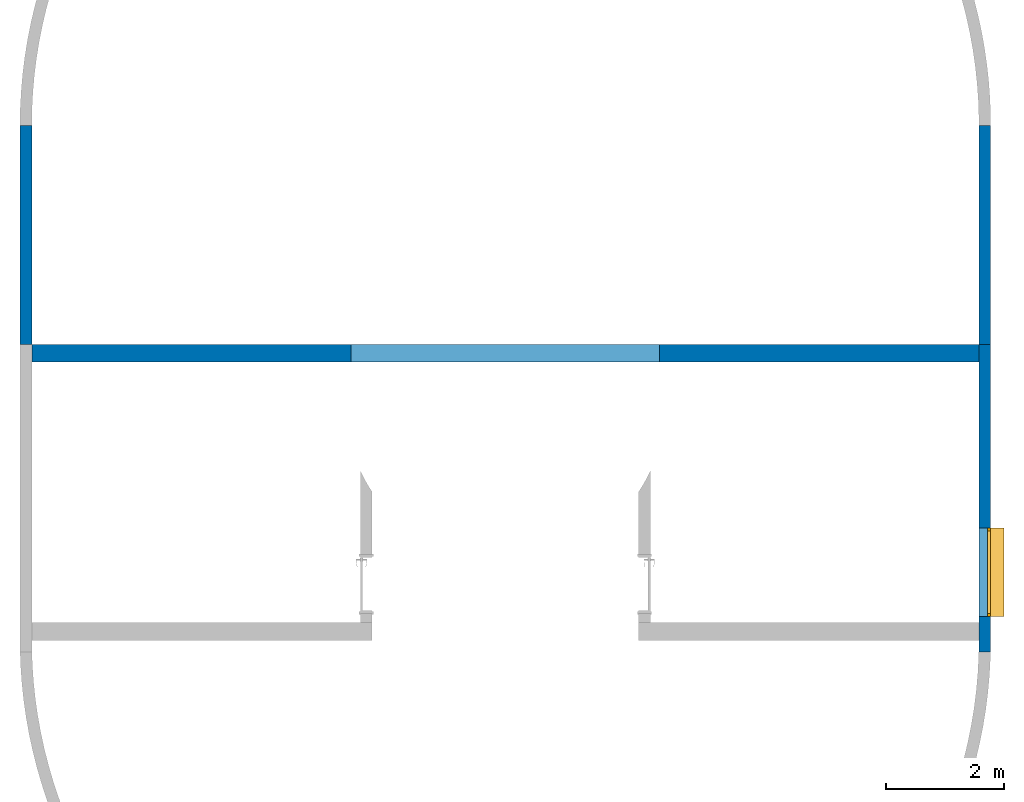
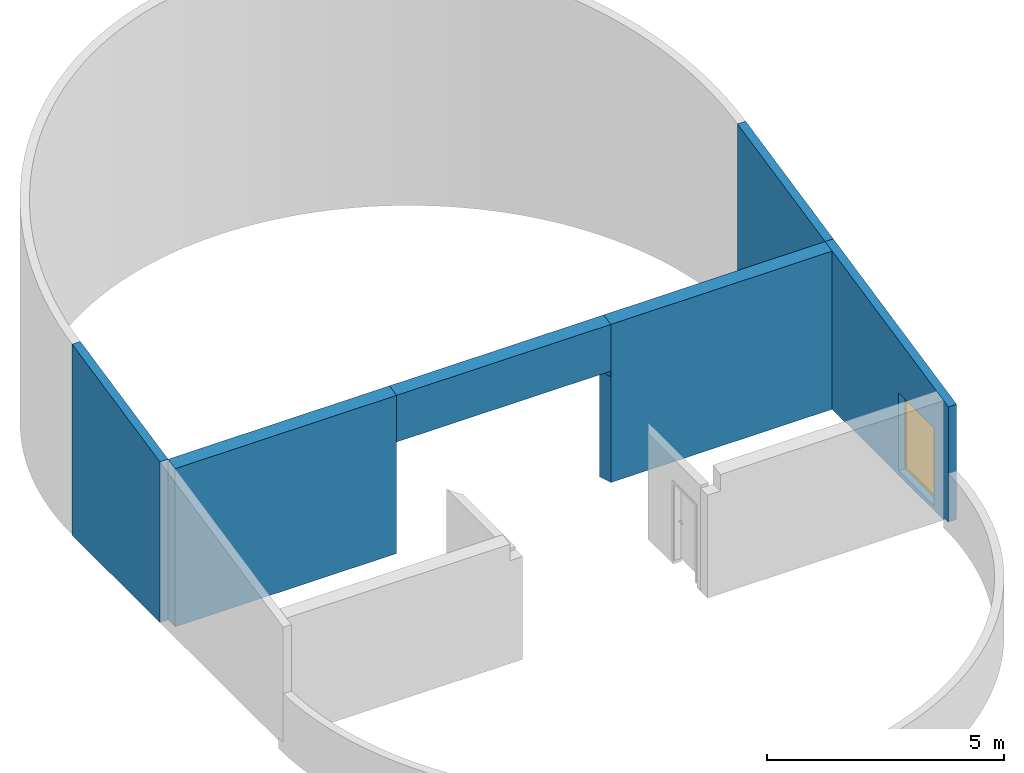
# One storey, part 6 of 7: 6 walls, 1 window, 2 openings.
"""IFC4 building model written with IfcOpenShell, lengths in millimetres."""

from ifc_helpers import new_model, entity, si_unit, converted_unit, derived_unit, direction, frame, origin_with_axes, place, context, subcontext, project, spatial, polygons, material, constituent, constituent_set, type_object, element, fill, save


model = new_model("IFC4")

# Units and contexts
model_context = context("Model", 3, precision=0.01, world=origin_with_axes(), true_north=direction((0.0, 1.0)))
body_context = subcontext(model_context, "Body", "Model", "MODEL_VIEW")
ifc_project = project(units=[si_unit("LENGTHUNIT", "METRE", prefix="MILLI"), si_unit("AREAUNIT", "SQUARE_METRE"), si_unit("VOLUMEUNIT", "CUBIC_METRE"), converted_unit("PLANEANGLEUNIT", "DEGREE", entity("IfcPlaneAngleMeasure", 0.0174532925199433), si_unit("PLANEANGLEUNIT", "RADIAN"), dimensions=[0, 0, 0, 0, 0, 0, 0]), converted_unit("TIMEUNIT", "Year", entity("IfcTimeMeasure", 31557600.0), si_unit("TIMEUNIT", "SECOND"), dimensions=[0, 0, 1, 0, 0, 0, 0]), si_unit("MASSUNIT", "GRAM", prefix="KILO"), si_unit("THERMODYNAMICTEMPERATUREUNIT", "DEGREE_CELSIUS"), si_unit("LUMINOUSINTENSITYUNIT", "LUMEN"), si_unit("ENERGYUNIT", "JOULE", prefix="MEGA"), derived_unit("THERMALCONDUCTANCEUNIT", [(si_unit("POWERUNIT", "WATT"), 1), (si_unit("LENGTHUNIT", "METRE"), -1), (si_unit("THERMODYNAMICTEMPERATUREUNIT", "KELVIN"), -1)]), derived_unit("SPECIFICHEATCAPACITYUNIT", [(si_unit("ENERGYUNIT", "JOULE"), 1), (si_unit("MASSUNIT", "GRAM", prefix="KILO"), -1), (si_unit("THERMODYNAMICTEMPERATUREUNIT", "KELVIN"), -1)]), derived_unit("MASSDENSITYUNIT", [(si_unit("MASSUNIT", "GRAM", prefix="KILO"), 1), (si_unit("VOLUMEUNIT", "CUBIC_METRE"), -1)])], contexts=[model_context])

# Site, building, storey
site_placement = place(None, origin_with_axes())
site = spatial("IfcSite", under=ifc_project, at=site_placement, Name="Exteriér", CompositionType="ELEMENT")
building_placement = place(site_placement, origin_with_axes())
building = spatial("IfcBuilding", under=site, at=building_placement, Name="Univerzitní lezecké centrum", CompositionType="ELEMENT")
storey_placement = place(building_placement, frame((0.0, 0.0, 9600.000000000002), z_axis=(0.0, 0.0, 1.0), x_axis=(1.0, 0.0, 0.0)))
storey = spatial("IfcBuildingStorey", under=building, at=storey_placement, Name="4.NP", CompositionType="ELEMENT", Elevation=9600.0)

# Wall, opening
ifc_material_1 = material(Name="Beton vyztužený - vnější svislé kce")
ifc_constituent_1 = constituent(ifc_material_1, Name="Beton vyztužený - vnější svislé kce")
ifc_constituent_set_1 = constituent_set(constituents=[ifc_constituent_1], Name="!Vnější betonová stěna 200 mm")
wall_type_1 = type_object("IfcWallType", Name="!Vnější betonová stěna 200 mm 200", PredefinedType="NOTDEFINED")
wall_1_placement = place(storey_placement, frame((10449.85164885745, 8399.999999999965, -120.000000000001), z_axis=(0.0, 0.0, 1.0), x_axis=(0.0, -1.0, 0.0)))
wall_1 = element("IfcWall", 1, at=wall_1_placement, inside=storey, type_object=wall_type_1, material=ifc_constituent_set_1, Name="St01", PredefinedType="NOTDEFINED", context=body_context, shape_type="Tessellation", body=[
    polygons([(0.0, 0.0, 4923.130388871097), (0.0, 200.0000000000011, 4923.130388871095), (0.0, 199.9999999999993, 0.0), (0.0, 0.0, 0.0), (3700.000000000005, 200.0000001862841, 4136.671110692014), (3700.000000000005, 0.0, 4136.671110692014), (3700.000000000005, 199.9999999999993, 0.0), (3429.669165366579, 199.9999999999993, 0.0), (3429.669165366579, 200.0000000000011, 245.8258195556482), (2619.196412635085, 200.0000000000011, 245.8258195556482), (2619.196412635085, 199.9999999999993, 0.0), (2619.196412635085, 0.0, 0.0), (2619.196412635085, 0.0, 245.8258195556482), (3429.669165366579, 0.0, 245.8258195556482), (3429.669165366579, 0.0, 0.0), (3700.000000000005, 0.0, 0.0)], [[[1, 2, 3, 4]], [[5, 2, 1, 6]], [[2, 5, 7, 8, 9, 10, 11, 3]], [[12, 4, 3, 11]], [[6, 1, 4, 12, 13, 14, 15, 16]], [[5, 6, 16, 7]], [[15, 8, 7, 16]], [[8, 15, 14, 9]], [[9, 14, 13, 10]], [[10, 13, 12, 11]]], closed=True),
])
opening_1_placement = place(wall_1_placement, frame((8399.999999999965, -10449.85164885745, -9480.0), z_axis=(0.0, 0.0, 1.0), x_axis=(0.0, 1.0, 0.0)))
element("IfcOpeningElement", 2, at=opening_1_placement, cuts=wall_1, Name="Pr04", PredefinedType="NOTDEFINED", context=body_context, identifier="Reference", shape_type="Tessellation", body=[
    polygons([(10249.85164885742, 5780.803587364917, 9480.0), (10249.85164885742, 5780.803587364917, 9725.825819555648), (10849.85164885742, 5780.803587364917, 9725.825819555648), (10849.85164885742, 5780.803587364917, 9480.0), (10249.85164885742, 4970.330834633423, 9480.0), (10249.85164885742, 4970.330834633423, 9725.825819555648), (10849.85164885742, 4970.330834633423, 9725.825819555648), (10849.85164885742, 4970.330834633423, 9480.0)], [[[1, 2, 3, 4]], [[1, 5, 6, 2]], [[2, 6, 7, 3]], [[4, 3, 7, 8]], [[5, 1, 4, 8]], [[6, 5, 8, 7]]], closed=True),
])

# Wall, opening, window
ifc_constituent_2 = constituent(ifc_material_1, Name="Beton vyztužený - vnější svislé kce")
ifc_constituent_set_2 = constituent_set(constituents=[ifc_constituent_2], Name="!Vnější betonová stěna 200 mm")
wall_2_placement = place(storey_placement, frame((10449.85164885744, 4699.99999999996, -120.000000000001), z_axis=(0.0, 0.0, 1.0), x_axis=(0.0, -1.0, 0.0)))
wall_2 = element("IfcWall", 3, at=wall_2_placement, inside=storey, type_object=wall_type_1, material=ifc_constituent_set_2, Name="St01", PredefinedType="NOTDEFINED", context=body_context, shape_type="Tessellation", body=[
    polygons([(150.7121686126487, 0.0, 4104.636251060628), (150.7121686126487, 200.0000000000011, 4104.636251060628), (0.0, 200.0000001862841, 4136.671110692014), (0.0, 0.0, 4136.671110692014), (5200.006158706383, 200.0000083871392, 3031.375681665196), (5200.006158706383, 0.0, 3031.375681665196), (5200.000000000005, 199.9999999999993, 1320.0), (5200.000000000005, 199.9999999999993, 69.00000000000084), (4999.999999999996, 199.9999999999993, 69.00000000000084), (4999.999999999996, 199.9999999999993, 0.0), (0.0, 199.9999999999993, 0.0), (3099.999999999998, 200.0000183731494, 2120.000000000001), (3099.999999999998, 200.0000183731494, 120.000000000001), (4599.999999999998, 200.0000183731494, 120.000000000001), (4599.999999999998, 200.0000183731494, 2120.000000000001), (0.0, 0.0, 0.0), (4999.999999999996, 0.0, 0.0), (4999.999999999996, 0.0, 69.00000000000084), (5200.000000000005, 0.0, 69.00000000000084), (5200.000000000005, 0.0, 1320.0), (3099.999999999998, 0.0, 2120.000000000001), (4599.999999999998, 0.0, 2120.000000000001), (4599.999999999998, 0.0, 120.000000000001), (3099.999999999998, 0.0, 120.000000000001)], [[[1, 2, 3, 4]], [[5, 2, 1, 6]], [[2, 5, 7, 8, 9, 10, 11, 3], [12, 13, 14, 15]], [[16, 4, 3, 11]], [[6, 1, 4, 16, 17, 18, 19, 20], [21, 22, 23, 24]], [[5, 6, 20, 7]], [[20, 19, 8, 7]], [[19, 18, 9, 8]], [[9, 18, 17, 10]], [[17, 16, 11, 10]], [[21, 24, 13, 12]], [[24, 23, 14, 13]], [[23, 22, 15, 14]], [[22, 21, 12, 15]]], closed=True),
])
opening_2_placement = place(wall_2_placement, frame((3849.999999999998, 0.0, 120.000000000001), z_axis=(0.0, 0.0, 1.0), x_axis=(1.0, 0.0, 0.0)))
opening_2 = element("IfcOpeningElement", 4, at=opening_2_placement, cuts=wall_2, Name="O03", context=body_context, identifier="Reference", shape_type="Tessellation", body=[
    polygons([(-750.0, -0.9999999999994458, 2000.0), (-750.0, -0.9999999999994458, 0.0), (750.0, -0.9999999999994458, 0.0), (750.0, -0.9999999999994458, 2000.0), (-750.0, 200.9999999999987, 2000.0), (-750.0, 200.9999999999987, 0.0), (750.0, 200.9999999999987, 0.0), (750.0, 200.9999999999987, 2000.0)], [[[1, 2, 3, 4]], [[5, 6, 2, 1]], [[6, 7, 3, 2]], [[7, 8, 4, 3]], [[8, 5, 1, 4]], [[7, 6, 5, 8]]], closed=True),
])
window_type = type_object("IfcWindowType", Name="Okno 27", PartitioningType="SINGLE_PANEL", PredefinedType="NOTDEFINED")
window_placement = place(opening_2_placement, frame((-750.0000000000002, 0.0, 0.0), z_axis=(0.0, 0.0, 1.0), x_axis=(1.0, 0.0, 0.0)))
window = element("IfcWindow", 5, at=window_placement, inside=storey, type_object=window_type, Name="O03", OverallHeight=2000.0, OverallWidth=1500.0, PredefinedType="NOTDEFINED", context=body_context, shape_type="Tessellation", body=[
    polygons([(0.0, 200.9999999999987, 25.00000000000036), (1500.0, 200.9999999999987, 25.00000000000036), (1500.0, 200.9999999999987, 15.00000000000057), (0.0, 200.9999999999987, 15.00000000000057), (1500.0, 424.9999999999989, 15.00000000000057), (0.0, 424.9999999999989, 15.00000000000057), (1500.0, 424.9999999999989, -5.000000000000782), (0.0, 424.9999999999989, -5.000000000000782), (1500.0, 414.9999999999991, 5.000000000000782), (0.0, 414.9999999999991, 5.000000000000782)], [[[1, 2, 3, 4]], [[4, 3, 5, 6]], [[6, 5, 7, 8]], [[8, 7, 9, 10]]], closed=False),
    polygons([(50.00000000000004, 149.9999999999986, 1949.999999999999), (50.00000000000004, 199.9999999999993, 1949.999999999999), (0.0, 199.9999999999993, 1949.999999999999), (0.0, 149.9999999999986, 1949.999999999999), (50.00000000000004, 149.9999999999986, 50.00000000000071), (50.00000000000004, 199.9999999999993, 50.00000000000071), (0.0, 199.9999999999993, 50.00000000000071), (0.0, 149.9999999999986, 50.00000000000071)], [[[1, 2, 3, 4]], [[5, 6, 2, 1]], [[2, 6, 7, 3]], [[4, 3, 7, 8]], [[1, 4, 8, 5]], [[8, 7, 6, 5]]], closed=True),
    polygons([(1450.0, 149.9999999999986, 50.00000000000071), (1450.0, 199.9999999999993, 50.00000000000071), (1500.0, 199.9999999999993, 50.00000000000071), (1500.0, 149.9999999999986, 50.00000000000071), (1450.0, 149.9999999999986, 1949.999999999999), (1450.0, 199.9999999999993, 1949.999999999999), (1500.0, 199.9999999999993, 1949.999999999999), (1500.0, 149.9999999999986, 1949.999999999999)], [[[1, 2, 3, 4]], [[5, 6, 2, 1]], [[2, 6, 7, 3]], [[4, 3, 7, 8]], [[1, 4, 8, 5]], [[8, 7, 6, 5]]], closed=True),
    polygons([(50.00000000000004, 149.9999999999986, 50.00000000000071), (50.00000000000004, 199.9999999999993, 50.00000000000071), (0.0, 199.9999999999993, 50.00000000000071), (0.0, 149.9999999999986, 50.00000000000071), (1450.0, 149.9999999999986, 50.00000000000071), (1450.0, 199.9999999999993, 50.00000000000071), (1500.0, 199.9999999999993, 50.00000000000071), (1500.0, 199.9999999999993, 0.0), (0.0, 199.9999999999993, 0.0), (0.0, 149.9999999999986, 0.0), (1500.0, 149.9999999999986, 0.0), (1500.0, 149.9999999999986, 50.00000000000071)], [[[1, 2, 3, 4]], [[5, 6, 2, 1]], [[2, 6, 7, 8, 9, 3]], [[4, 3, 9, 10]], [[1, 4, 10, 11, 12, 5]], [[12, 7, 6, 5]], [[11, 8, 7, 12]], [[10, 9, 8, 11]]], closed=True),
    polygons([(1450.0, 149.9999999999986, 1949.999999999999), (1450.0, 199.9999999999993, 1949.999999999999), (1500.0, 199.9999999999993, 1949.999999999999), (1500.0, 149.9999999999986, 1949.999999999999), (50.00000000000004, 149.9999999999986, 1949.999999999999), (50.00000000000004, 199.9999999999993, 1949.999999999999), (0.0, 199.9999999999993, 1949.999999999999), (0.0, 199.9999999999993, 2000.0), (1500.0, 199.9999999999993, 2000.0), (1500.0, 149.9999999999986, 2000.0), (0.0, 149.9999999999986, 2000.0), (0.0, 149.9999999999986, 1949.999999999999)], [[[1, 2, 3, 4]], [[5, 6, 2, 1]], [[2, 6, 7, 8, 9, 3]], [[4, 3, 9, 10]], [[1, 4, 10, 11, 12, 5]], [[12, 7, 6, 5]], [[11, 8, 7, 12]], [[10, 9, 8, 11]]], closed=True),
    polygons([(50.00000000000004, 164.9999999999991, 50.00000000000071), (1450.0, 164.9999999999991, 50.00000000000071), (1450.0, 164.9999999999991, 1949.999999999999), (50.00000000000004, 164.9999999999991, 1949.999999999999)], [[[1, 2, 3, 4]]], closed=False),
    polygons([(50.00000000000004, 184.9999999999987, 50.00000000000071), (50.00000000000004, 184.9999999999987, 1949.999999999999), (1450.0, 184.9999999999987, 1949.999999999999), (1450.0, 184.9999999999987, 50.00000000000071)], [[[1, 2, 3, 4]]], closed=False),
])
fill(opening_2, window)

# Walls
ifc_constituent_3 = constituent(ifc_material_1, Name="Beton vyztužený - vnější svislé kce")
ifc_constituent_set_3 = constituent_set(constituents=[ifc_constituent_3], Name="!Vnější betonová stěna 200 mm")
wall_3_placement = place(storey_placement, frame((-5550.148351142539, 8400.000000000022, -120.000000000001), z_axis=(0.0, 0.0, 1.0), x_axis=(0.0, -1.0, 0.0)))
element("IfcWall", 6, at=wall_3_placement, inside=storey, type_object=wall_type_1, material=ifc_constituent_set_3, Name="St01", PredefinedType="NOTDEFINED", context=body_context, shape_type="Tessellation", body=[
    polygons([(0.0, -199.9999999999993, 4923.130388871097), (0.0, 0.0, 4923.130388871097), (0.0, 0.0, 0.0), (0.0, -200.0000000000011, 0.0), (3700.000000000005, 1.862847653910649e-07, 4136.671110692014), (3700.000000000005, -199.9999999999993, 4136.671110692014), (3700.000000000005, 0.0, 0.0), (3700.000000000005, -200.0000000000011, 0.0)], [[[1, 2, 3, 4]], [[5, 2, 1, 6]], [[2, 5, 7, 3]], [[4, 3, 7, 8]], [[6, 1, 4, 8]], [[5, 6, 8, 7]]], closed=True),
])
ifc_material_2 = material(Name="Beton vyztužený - vnitřní svislé kce")
ifc_constituent_4 = constituent(ifc_material_2, Name="Beton vyztužený - vnitřní svislé kce")
ifc_constituent_set_4 = constituent_set(constituents=[ifc_constituent_4], Name="!Vnitřní betonová stěna 300 mm")
wall_type_2 = type_object("IfcWallType", Name="!Vnitřní betonová stěna 300 mm 300", PredefinedType="NOTDEFINED")
wall_4_placement = place(storey_placement, frame((-157.8293132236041, 4700.0, 2600.0), z_axis=(0.0, 0.0, 1.0), x_axis=(1.0, 0.0, 0.0)))
element("IfcWall", 7, at=wall_4_placement, inside=storey, type_object=wall_type_2, material=ifc_constituent_set_4, Name="St04", PredefinedType="NOTDEFINED", context=body_context, shape_type="Tessellation", body=[
    polygons([(0.0, -150.7121686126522, 1384.636251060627), (0.0, -299.9999999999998, 1352.904142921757), (5215.361924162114, -299.9999999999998, 1352.904142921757), (5215.361924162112, -150.7121686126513, 1384.636251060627), (5215.361924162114, 0.0, 1416.671110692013), (0.0, 0.0, 1416.671110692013), (0.0, 0.0, 0.0), (0.0, -298.265871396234, 0.0), (0.0, -298.265871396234, 150.0000000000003), (0.0, -299.9999999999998, 150.0000000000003), (5215.361924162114, -299.9999999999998, 150.0000000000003), (5215.361924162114, -296.4482645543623, 150.0000000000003), (5215.361924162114, -296.4482645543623, 0.0), (5215.361924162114, 0.0, 0.0), (5116.246360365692, 0.0, 0.0), (5116.246360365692, 0.0, 150.0000000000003), (98.86732965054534, 0.0, 150.0000000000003), (98.86732965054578, 0.0, 0.0), (91.80999681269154, -16.5472235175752, 0.0), (36.53441104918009, -171.753967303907, 0.0), (36.53441104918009, -171.753967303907, 150.0000000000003), (5164.159108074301, -127.5289813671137, 150.0000000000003), (5212.593274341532, -285.0048691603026, 150.0000000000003), (91.80999681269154, -16.5472235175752, 150.0000000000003), (5212.593274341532, -285.0048691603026, 0.0), (5164.159108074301, -127.5289813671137, 0.0)], [[[1, 2, 3, 4, 5, 6]], [[2, 1, 6, 7, 8, 9, 10]], [[3, 2, 10, 11]], [[4, 3, 11, 12, 13, 14, 5]], [[7, 6, 5, 14, 15, 16, 17, 18]], [[7, 18, 19, 20, 8]], [[20, 21, 9, 8]], [[16, 22, 23, 12, 11, 10, 9, 21, 24, 17]], [[12, 23, 25, 13]], [[14, 13, 25, 26, 15]], [[26, 22, 16, 15]], [[17, 24, 19, 18]], [[19, 24, 21, 20]], [[25, 23, 22, 26]]], closed=True),
])
ifc_constituent_5 = constituent(ifc_material_2, Name="Beton vyztužený - vnitřní svislé kce")
ifc_constituent_set_5 = constituent_set(constituents=[ifc_constituent_5], Name="!Vnitřní betonová stěna 300 mm")
wall_5_placement = place(storey_placement, frame((4741.139496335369, 4699.999999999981, -120.000000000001), z_axis=(0.0, 0.0, 1.0), x_axis=(1.0, 0.0, 0.0)))
element("IfcWall", 8, at=wall_5_placement, inside=storey, type_object=wall_type_2, material=ifc_constituent_set_5, Name="St04", PredefinedType="NOTDEFINED", context=body_context, shape_type="Tessellation", body=[
    polygons([(316.3931146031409, -150.7121686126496, 4104.636251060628), (5708.712152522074, -150.7121686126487, 4104.636251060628), (5708.712152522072, 0.0, 4136.671110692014), (316.3931146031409, 0.0, 4136.671110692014), (5708.712152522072, -299.9999999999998, 4072.904142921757), (316.3931146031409, -299.9999999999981, 4072.904142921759), (5708.712152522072, -299.9999999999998, 0.0), (5708.712152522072, 0.0, 0.0), (316.3931146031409, 0.0, 2870.000000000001), (216.7398023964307, 0.0, 0.0), (216.7398018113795, 1.490117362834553e-06, 2720.0), (217.2775508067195, 0.0, 2720.0), (217.2775508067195, 0.0, 2870.000000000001), (316.3931146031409, -296.4482645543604, 2870.000000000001), (316.3931146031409, -299.9999999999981, 2870.000000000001), (317.2524322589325, -299.9999999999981, 2870.000000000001), (317.2524322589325, -299.9999999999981, 2720.0), (316.7088482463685, -299.9999999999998, 2720.0), (316.7088482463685, -299.9999999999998, 0.0), (305.6665879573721, -256.2435752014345, 0.0), (253.2661307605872, -93.03196804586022, 0.0), (253.2661307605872, -93.03196804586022, 2720.000000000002), (229.2177255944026, -31.78106873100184, 2720.0), (252.3521366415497, -93.35774751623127, 2720.0), (259.3555644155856, -111.9987157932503, 2720.0), (265.1902985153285, -127.5289813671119, 2720.0), (265.1902985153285, -127.5289813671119, 2870.000000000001), (313.6244647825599, -285.0048691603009, 2870.000000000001), (313.6244647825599, -285.0048691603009, 2720.0), (309.7261459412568, -272.3301135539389, 2720.0), (305.6665879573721, -256.2435752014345, 2720.000000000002), (284.534237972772, -190.4226837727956, 2720.0), (304.8503764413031, -256.4773346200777, 2720.0)], [[[1, 2, 3, 4]], [[5, 2, 1, 6]], [[2, 5, 7, 8, 3]], [[9, 4, 3, 8, 10, 11, 12, 13]], [[6, 1, 4, 9, 14, 15]], [[5, 6, 15, 16, 17, 18, 19, 7]], [[19, 20, 21, 10, 8, 7]], [[10, 21, 22, 23, 11]], [[11, 23, 12]], [[24, 25, 26, 27, 13, 12, 23]], [[9, 13, 27, 28, 14]], [[16, 15, 14]], [[14, 28, 29, 17, 16]], [[17, 29, 30, 18]], [[31, 20, 19, 18, 30]], [[21, 20, 31, 32, 25, 22]], [[24, 23, 22]], [[25, 24, 22]], [[25, 32, 26]], [[33, 30, 29, 28, 27, 26, 32]], [[30, 33, 31]], [[33, 32, 31]]], closed=True),
])
ifc_constituent_6 = constituent(ifc_material_2, Name="Beton vyztužený - vnitřní svislé kce")
ifc_constituent_set_6 = constituent_set(constituents=[ifc_constituent_6], Name="!Vnitřní betonová stěna 300 mm")
wall_6_placement = place(storey_placement, frame((-5550.148351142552, 4700.000000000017, -120.000000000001), z_axis=(0.0, 0.0, 1.0), x_axis=(1.0, 0.0, 0.0)))
element("IfcWall", 9, at=wall_6_placement, inside=storey, type_object=wall_type_2, material=ifc_constituent_set_6, Name="St04", PredefinedType="NOTDEFINED", context=body_context, shape_type="Tessellation", body=[
    polygons([(0.0, -150.7121686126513, 4104.636251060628), (5392.319037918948, -150.7121686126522, 4104.636251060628), (5392.319037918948, 0.0, 4136.671110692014), (1.862847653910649e-07, 0.0, 4136.671110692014), (5392.319037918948, -299.9999999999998, 4072.904142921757), (7.336478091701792e-07, -299.9999999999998, 4072.904142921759), (5392.319037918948, -299.9999999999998, 2870.000000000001), (5392.319037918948, -298.265871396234, 2870.000000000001), (5392.319037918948, 0.0, 2870.000000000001), (0.0, 0.0, 0.0), (5491.186367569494, 0.0, 2870.000000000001), (5491.186367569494, 0.0, 2720.0), (5491.709955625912, 1.490115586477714e-06, 2720.0), (5491.709955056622, 0.0, 0.0), (0.0, -299.9999999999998, 0.0), (5391.50178103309, -300.0000000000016, 0.0), (5391.50178103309, -300.0000000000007, 2720.000000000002), (5391.818252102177, -300.0000000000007, 2720.0), (5391.818252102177, -299.9999999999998, 2870.000000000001), (5428.853448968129, -171.753967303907, 2870.000000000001), (5484.12903473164, -16.5472235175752, 2870.000000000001), (5484.12903473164, -16.5472235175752, 2720.0), (5466.817054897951, -65.1570388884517, 2720.0), (5447.21256919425, -116.4716799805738, 2720.000000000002), (5447.21256919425, -116.4716799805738, 0.0), (5396.315327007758, -280.1582932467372, 0.0), (5396.315327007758, -280.1582932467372, 2720.000000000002), (5397.457034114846, -280.4739414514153, 2720.0), (5413.613861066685, -224.5258398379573, 2720.0), (5428.853448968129, -171.753967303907, 2720.0), (5448.395912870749, -116.8812392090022, 2720.0), (5438.068287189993, -145.8798853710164, 2720.0)], [[[1, 2, 3, 4]], [[5, 2, 1, 6]], [[2, 5, 7, 8, 9, 3]], [[10, 4, 3, 9, 11, 12, 13, 14]], [[6, 1, 4, 10, 15]], [[5, 6, 15, 16, 17, 18, 19, 7]], [[8, 7, 19]], [[9, 8, 20, 21, 11]], [[11, 21, 22, 12]], [[13, 12, 22, 23]], [[24, 25, 14, 13, 23]], [[14, 25, 26, 16, 15, 10]], [[16, 26, 27, 17]], [[18, 17, 27, 28]], [[28, 29, 30, 20, 8, 19, 18]], [[31, 23, 22, 21, 20, 30, 32]], [[26, 25, 24, 32, 29, 27]], [[23, 31, 24]], [[29, 28, 27]], [[29, 32, 30]], [[31, 32, 24]]], closed=True),
])

save(model, "model.ifc")
